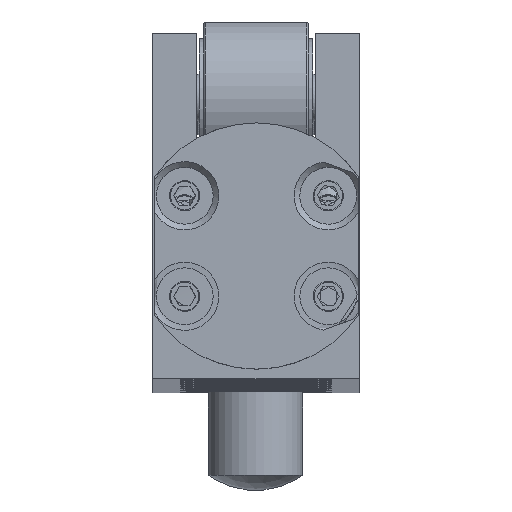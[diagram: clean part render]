
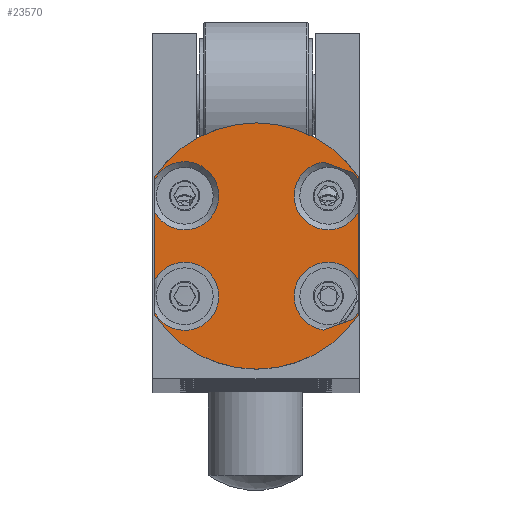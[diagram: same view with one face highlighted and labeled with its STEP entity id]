
A CAD part, top view. The second image highlights one B-rep face of the part: STEP entity #23570.
In plain terms, the highlighted planar face has unit normal (0, 0, 1).
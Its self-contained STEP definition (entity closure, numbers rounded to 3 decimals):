
#1077=PLANE('',#25782);
#1580=LINE('',#39413,#2491);
#1582=LINE('',#39416,#2493);
#1583=LINE('',#39421,#2494);
#1586=LINE('',#39452,#2497);
#1589=LINE('',#39475,#2500);
#1590=LINE('',#39476,#2501);
#1592=LINE('',#39478,#2503);
#1595=LINE('',#39494,#2506);
#2491=VECTOR('',#30904,10.);
#2493=VECTOR('',#30906,10.);
#2494=VECTOR('',#30907,10.);
#2497=VECTOR('',#30924,10.);
#2500=VECTOR('',#30943,10.);
#2501=VECTOR('',#30944,10.);
#2503=VECTOR('',#30946,10.);
#2506=VECTOR('',#30965,10.);
#3967=FACE_OUTER_BOUND('',#5274,.T.);
#5274=EDGE_LOOP('',(#17000,#17001,#17002,#17003,#17004,#17005,#17006,#17007,
#17008,#17009,#17010,#17011,#17012,#17013,#17014,#17015));
#7182=CIRCLE('',#25746,13.);
#7189=CIRCLE('',#25757,13.);
#7195=CIRCLE('',#25766,3.6);
#7199=CIRCLE('',#25773,3.6);
#7200=CIRCLE('',#25774,3.6);
#7204=CIRCLE('',#25781,3.6);
#7205=CIRCLE('',#25783,3.6);
#7206=CIRCLE('',#25784,3.6);
#9494=VERTEX_POINT('',#39367);
#9497=VERTEX_POINT('',#39372);
#9508=VERTEX_POINT('',#39399);
#9509=VERTEX_POINT('',#39401);
#9511=VERTEX_POINT('',#39408);
#9512=VERTEX_POINT('',#39409);
#9513=VERTEX_POINT('',#39415);
#9514=VERTEX_POINT('',#39417);
#9518=VERTEX_POINT('',#39431);
#9520=VERTEX_POINT('',#39436);
#9521=VERTEX_POINT('',#39443);
#9523=VERTEX_POINT('',#39448);
#9527=VERTEX_POINT('',#39466);
#9529=VERTEX_POINT('',#39471);
#9533=VERTEX_POINT('',#39491);
#9534=VERTEX_POINT('',#39493);
#12327=EDGE_CURVE('',#9497,#9494,#7182,.T.);
#12339=EDGE_CURVE('',#9508,#9509,#7189,.T.);
#12344=EDGE_CURVE('',#9497,#9512,#1580,.T.);
#12346=EDGE_CURVE('',#9513,#9509,#1582,.T.);
#12348=EDGE_CURVE('',#9511,#9514,#1583,.T.);
#12354=EDGE_CURVE('',#9520,#9518,#7195,.T.);
#12359=EDGE_CURVE('',#9521,#9523,#1586,.T.);
#12364=EDGE_CURVE('',#9523,#9513,#7199,.T.);
#12366=EDGE_CURVE('',#9514,#9521,#7200,.T.);
#12369=EDGE_CURVE('',#9518,#9529,#1589,.T.);
#12370=EDGE_CURVE('',#9508,#9520,#1590,.T.);
#12372=EDGE_CURVE('',#9527,#9494,#1592,.T.);
#12377=EDGE_CURVE('',#9529,#9527,#7204,.T.);
#12379=EDGE_CURVE('',#9512,#9533,#7205,.T.);
#12380=EDGE_CURVE('',#9533,#9534,#1595,.T.);
#12381=EDGE_CURVE('',#9534,#9511,#7206,.T.);
#17000=ORIENTED_EDGE('',*,*,#12379,.T.);
#17001=ORIENTED_EDGE('',*,*,#12380,.T.);
#17002=ORIENTED_EDGE('',*,*,#12381,.T.);
#17003=ORIENTED_EDGE('',*,*,#12348,.T.);
#17004=ORIENTED_EDGE('',*,*,#12366,.T.);
#17005=ORIENTED_EDGE('',*,*,#12359,.T.);
#17006=ORIENTED_EDGE('',*,*,#12364,.T.);
#17007=ORIENTED_EDGE('',*,*,#12346,.T.);
#17008=ORIENTED_EDGE('',*,*,#12339,.F.);
#17009=ORIENTED_EDGE('',*,*,#12370,.T.);
#17010=ORIENTED_EDGE('',*,*,#12354,.T.);
#17011=ORIENTED_EDGE('',*,*,#12369,.T.);
#17012=ORIENTED_EDGE('',*,*,#12377,.T.);
#17013=ORIENTED_EDGE('',*,*,#12372,.T.);
#17014=ORIENTED_EDGE('',*,*,#12327,.F.);
#17015=ORIENTED_EDGE('',*,*,#12344,.T.);
#23570=ADVANCED_FACE('',(#3967),#1077,.T.);
#25746=AXIS2_PLACEMENT_3D('',#39374,#30868,#30869);
#25757=AXIS2_PLACEMENT_3D('',#39402,#30895,#30896);
#25766=AXIS2_PLACEMENT_3D('',#39437,#30919,#30920);
#25773=AXIS2_PLACEMENT_3D('',#39462,#30936,#30937);
#25774=AXIS2_PLACEMENT_3D('',#39464,#30939,#30940);
#25781=AXIS2_PLACEMENT_3D('',#39488,#30958,#30959);
#25782=AXIS2_PLACEMENT_3D('',#39490,#30961,#30962);
#25783=AXIS2_PLACEMENT_3D('',#39492,#30963,#30964);
#25784=AXIS2_PLACEMENT_3D('',#39495,#30966,#30967);
#30868=DIRECTION('center_axis',(0.,0.,
-1.));
#30869=DIRECTION('ref_axis',(0.,1.,0.));
#30895=DIRECTION('center_axis',(0.,0.,
-1.));
#30896=DIRECTION('ref_axis',(0.,1.,0.));
#30904=DIRECTION('',(0.,1.,0.));
#30906=DIRECTION('',(0.,1.,0.));
#30907=DIRECTION('',(0.,1.,0.));
#30919=DIRECTION('center_axis',(0.,0.,
-1.));
#30920=DIRECTION('ref_axis',(1.,0.,0.));
#30924=DIRECTION('',(0.94,-0.342,0.));
#30936=DIRECTION('center_axis',(0.,0.,
-1.));
#30937=DIRECTION('ref_axis',(-0.342,-0.94,0.));
#30939=DIRECTION('center_axis',(0.,0.,
-1.));
#30940=DIRECTION('ref_axis',(-0.342,-0.94,0.));
#30943=DIRECTION('',(0.,-1.,0.));
#30944=DIRECTION('',(0.,-1.,0.));
#30946=DIRECTION('',(0.,-1.,0.));
#30958=DIRECTION('center_axis',(0.,0.,
-1.));
#30959=DIRECTION('ref_axis',(1.,0.,0.));
#30961=DIRECTION('center_axis',(0.,0.,
1.));
#30962=DIRECTION('ref_axis',(1.,0.,0.));
#30963=DIRECTION('center_axis',(0.,0.,
-1.));
#30964=DIRECTION('ref_axis',(-0.342,0.94,0.));
#30965=DIRECTION('',(-0.94,-0.342,0.));
#30966=DIRECTION('center_axis',(0.,0.,
-1.));
#30967=DIRECTION('ref_axis',(-0.342,0.94,0.));
#39367=CARTESIAN_POINT('',(-10.7,-11.56,426.));
#39372=CARTESIAN_POINT('',(10.8,-11.56,426.));
#39374=CARTESIAN_POINT('Origin',(0.05,-4.25,426.));
#39399=CARTESIAN_POINT('',(-10.7,3.06,426.));
#39401=CARTESIAN_POINT('',(10.8,3.06,426.));
#39402=CARTESIAN_POINT('Origin',(0.05,-4.25,426.));
#39408=CARTESIAN_POINT('',(10.8,-7.855,426.));
#39409=CARTESIAN_POINT('',(10.8,-11.256,426.));
#39413=CARTESIAN_POINT('',(10.8,-4.655,426.));
#39415=CARTESIAN_POINT('',(10.8,2.756,426.));
#39416=CARTESIAN_POINT('',(10.8,-4.655,426.));
#39417=CARTESIAN_POINT('',(10.8,-0.645,426.));
#39421=CARTESIAN_POINT('',(10.8,-4.655,426.));
#39431=CARTESIAN_POINT('',(-10.7,-0.645,426.));
#39436=CARTESIAN_POINT('',(-10.7,2.756,426.));
#39437=CARTESIAN_POINT('Origin',(-7.527,1.056,426.));
#39443=CARTESIAN_POINT('',(7.114,4.619,426.));
#39448=CARTESIAN_POINT('',(10.311,3.455,426.));
#39452=CARTESIAN_POINT('',(6.117,4.982,426.));
#39462=CARTESIAN_POINT('Origin',(7.627,1.056,426.));
#39464=CARTESIAN_POINT('Origin',(7.627,1.056,426.));
#39466=CARTESIAN_POINT('',(-10.7,-11.256,426.));
#39471=CARTESIAN_POINT('',(-10.7,-7.855,426.));
#39475=CARTESIAN_POINT('',(-10.7,2.655,426.));
#39476=CARTESIAN_POINT('',(-10.7,2.655,426.));
#39478=CARTESIAN_POINT('',(-10.7,2.655,426.));
#39488=CARTESIAN_POINT('Origin',(-7.527,-9.556,426.));
#39490=CARTESIAN_POINT('Origin',(0.05,2.25,426.));
#39491=CARTESIAN_POINT('',(10.311,-11.955,426.));
#39492=CARTESIAN_POINT('Origin',(7.627,-9.556,426.));
#39493=CARTESIAN_POINT('',(7.114,-13.119,426.));
#39494=CARTESIAN_POINT('',(8.206,-12.721,426.));
#39495=CARTESIAN_POINT('Origin',(7.627,-9.556,426.));
